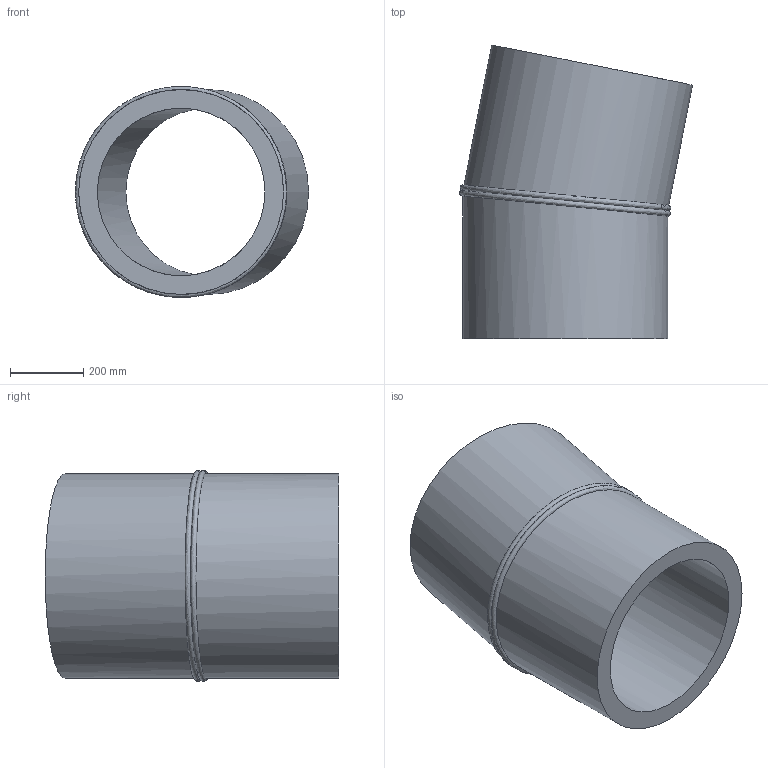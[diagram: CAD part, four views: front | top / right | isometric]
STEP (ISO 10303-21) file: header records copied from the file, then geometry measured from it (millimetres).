
FILE_DESCRIPTION(/* description */ ('Unknown'),/* implementation_level */ '2;1');
FILE_NAME(/* name */ 'Curva 11.25° a settore DE560 SDR11',/* time_stamp */ '2022-07-22T14:52:12+02:00',/* author */ ('Unknown'),/* organization */ ('Unknown'),/* preprocessor_version */ 'ST-DEVELOPER v18.102',/* originating_system */ 'Solid Edge',/* authorisation */ 'Unknown');
FILE_SCHEMA (('AUTOMOTIVE_DESIGN {1 0 10303 214 3 1 1}'));
Length unit declared in the file: millimetre
Products named in the file (2): Curva 11.25° a settore DE560 SDR11; Tubo x Gomito 11.25° DE560 SDR11
Assembly tree (2 placements, depth 2):
  Curva 11.25° a settore DE560 SDR11
    Tubo x Gomito 11.25° DE560 SDR11  x2
Bounding box: 637.24 x 802.53 x 576.45 mm (x, y, z)
Volume: 61722551 mm3; surface area: 2779294.5 mm2
Topology: 2 solids, 2 shells, 10 faces, 20 edges, 14 vertices
Faces by surface type: cylinder 4, plane 4, bspline 2
Full cylindrical faces by diameter (mm): 458.4 x2, 560 x2
Entity records: 1289 total; most frequent: CARTESIAN_POINT 1152, DIRECTION 20, ORIENTED_EDGE 10, EDGE_LOOP 10, FACE_BOUND 10, AXIS2_PLACEMENT_3D 10, EDGE_CURVE 5, VERTEX_POINT 5
